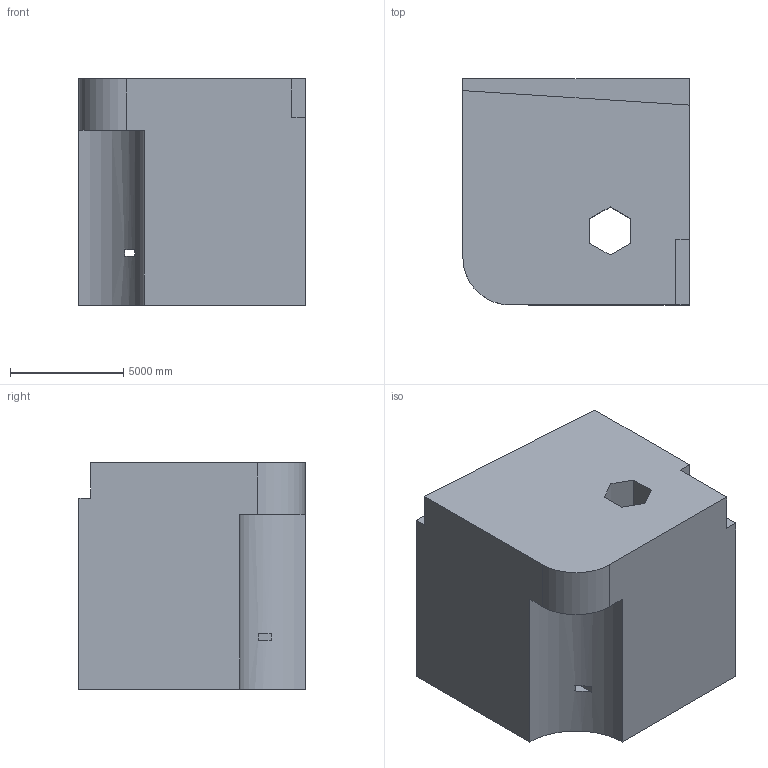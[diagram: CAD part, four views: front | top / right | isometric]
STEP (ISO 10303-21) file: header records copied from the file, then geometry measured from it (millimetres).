
FILE_DESCRIPTION (( 'STEP AP203' ), '1' );
FILE_NAME ('56.STEP', '2022-09-02T13:53:30', ( 'user' ), ( '' ), 'SwSTEP 2.0', 'SolidWorks 2021', '' );
FILE_SCHEMA (( 'CONFIG_CONTROL_DESIGN' ));
Length unit declared in the file: centimetre
Products named in the file (1): 56
Bounding box: 10000 x 10000 x 10000 mm (x, y, z)
Volume: 900482318729.9 mm3; surface area: 653887587.5 mm2
Topology: 1 solids, 1 shells, 24 faces, 66 edges, 44 vertices
Faces by surface type: plane 22, cylinder 2
Entity records: 841 total; most frequent: CARTESIAN_POINT 135, ORIENTED_EDGE 132, DIRECTION 122, EDGE_CURVE 66, VECTOR 60, LINE 60, VERTEX_POINT 44, AXIS2_PLACEMENT_3D 31
